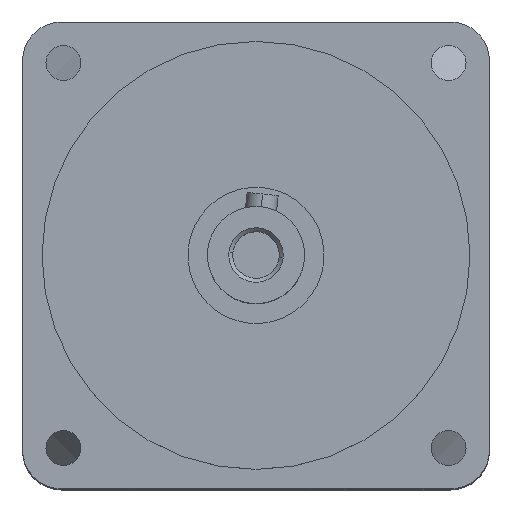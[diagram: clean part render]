
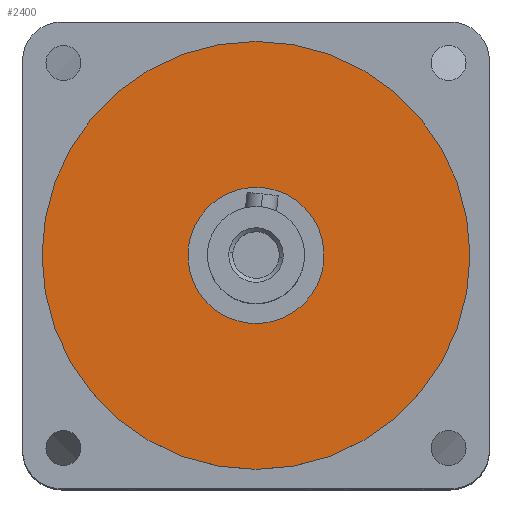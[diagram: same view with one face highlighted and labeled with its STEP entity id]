
A CAD part, top view. The second image highlights one B-rep face of the part: STEP entity #2400.
In plain terms, the highlighted planar face has unit normal (0, 0, 1).
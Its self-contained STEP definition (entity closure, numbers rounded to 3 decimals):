
#94 = VERTEX_POINT ( 'NONE', #2194 ) ;
#170 = CARTESIAN_POINT ( 'NONE',  ( 95.126, -22.151, 341.871 ) ) ;
#239 = DIRECTION ( 'NONE',  ( 0., 0., 1. ) ) ;
#406 = DIRECTION ( 'NONE',  ( 0., 0., -1. ) ) ;
#793 = EDGE_CURVE ( 'NONE', #94, #3180, #2357, .T. ) ;
#907 = EDGE_LOOP ( 'NONE', ( #1733, #2841 ) ) ;
#979 = EDGE_CURVE ( 'NONE', #3180, #94, #2752, .T. ) ;
#984 = CARTESIAN_POINT ( 'NONE',  ( 40.126, -22.151, 341.871 ) ) ;
#1377 = FACE_OUTER_BOUND ( 'NONE', #907, .T. ) ;
#1395 = CARTESIAN_POINT ( 'NONE',  ( 40.126, -22.151, 341.871 ) ) ;
#1425 = AXIS2_PLACEMENT_3D ( 'NONE', #1902, #406, #2170 ) ;
#1654 = DIRECTION ( 'NONE',  ( -1., 0., 0. ) ) ;
#1733 = ORIENTED_EDGE ( 'NONE', *, *, #793, .F. ) ;
#1902 = CARTESIAN_POINT ( 'NONE',  ( 40.126, -22.151, 341.871 ) ) ;
#1997 = DIRECTION ( 'NONE',  ( 1., 0., 0. ) ) ;
#2170 = DIRECTION ( 'NONE',  ( -1., 0., 0. ) ) ;
#2194 = CARTESIAN_POINT ( 'NONE',  ( -14.874, -22.151, 341.871 ) ) ;
#2216 = AXIS2_PLACEMENT_3D ( 'NONE', #984, #239, #1997 ) ;
#2357 = CIRCLE ( 'NONE', #2865, 55. ) ;
#2400 = ADVANCED_FACE ( 'NONE', ( #1377 ), #3009, .T. ) ;
#2752 = CIRCLE ( 'NONE', #1425, 55. ) ;
#2841 = ORIENTED_EDGE ( 'NONE', *, *, #979, .F. ) ;
#2865 = AXIS2_PLACEMENT_3D ( 'NONE', #1395, #3161, #1654 ) ;
#3009 = PLANE ( 'NONE',  #2216 ) ;
#3161 = DIRECTION ( 'NONE',  ( 0., 0., -1. ) ) ;
#3180 = VERTEX_POINT ( 'NONE', #170 ) ;
